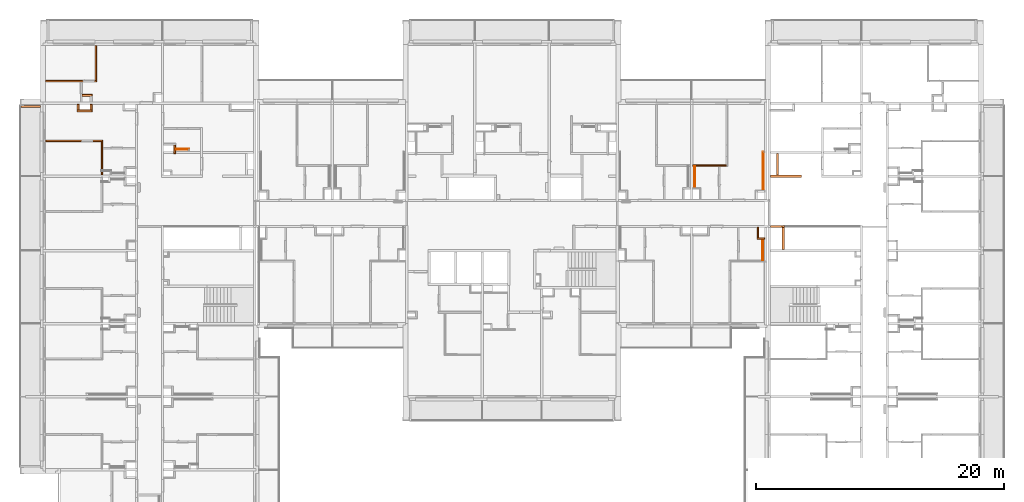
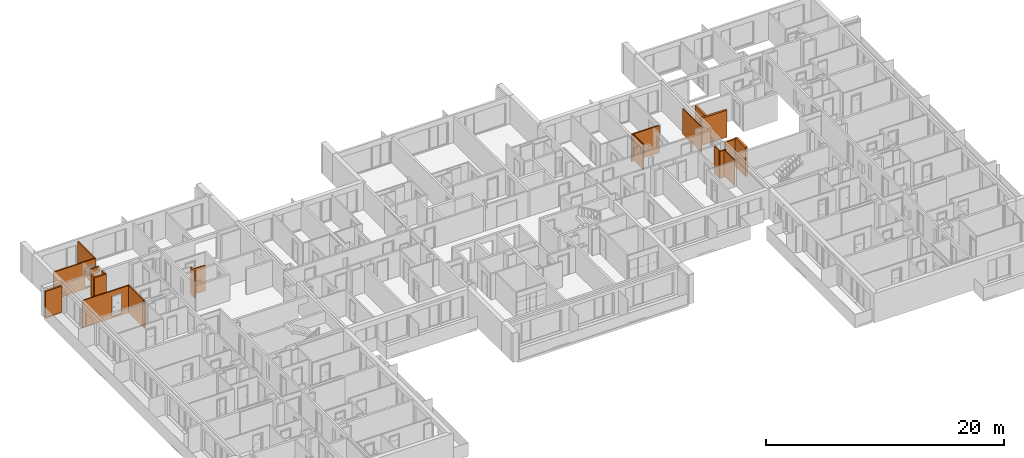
# One storey, part 61 of 66: 21 proxies, 2 openings.
"""IFC2X3 building model written with IfcOpenShell, lengths in millimetres."""

import ifcopenshell
import ifcopenshell.guid

model = None  # the IFC model being written
_history = None  # IfcOwnerHistory: only IFC2X3 demands one
_inside = {}  # id of a spatial element -> (the spatial element, [elements in it])
_under = {}  # id of a project, library or spatial element -> (it, [spatial elements below it])
_declared = {}  # id of a project -> (the project, [libraries it declares])
_typed = {}  # id of a type object -> (the type object, [elements of that type])
_made_of = {}  # id of a material, layer set ... -> (it, [elements and type objects made of it])


def new_model(schema):
    """Start an empty IFC model of exactly this schema.

    Asked for "IFC4X3", IfcOpenShell would pick the latest addendum, in which some entities
    have other attributes; the version numbers below select the first issue.
    IFC2X3 requires an IfcOwnerHistory on every rooted entity: one is made here for all.
    """
    global model, _history
    if schema == "IFC4X3":
        model = ifcopenshell.file(schema_version=(4, 3, 0, 0))
    else:
        model = ifcopenshell.file(schema=schema)
    _inside.clear()
    _under.clear()
    _declared.clear()
    _typed.clear()
    _made_of.clear()
    _history = None
    if model.schema == "IFC2X3":
        org = make("IfcOrganization", Name="unknown")
        user = make(
            "IfcPersonAndOrganization",
            ThePerson=make("IfcPerson", FamilyName="unknown"),
            TheOrganization=org,
        )
        app = make(
            "IfcApplication",
            ApplicationDeveloper=org,
            Version="unknown",
            ApplicationFullName="unknown",
            ApplicationIdentifier="unknown",
        )
        _history = make(
            "IfcOwnerHistory",
            OwningUser=user,
            OwningApplication=app,
            ChangeAction="ADDED",
            CreationDate=0,
        )
    return model


def make(cls, **values):
    """One entity of the class cls with the attributes given. An attribute that is None is left unset."""
    return model.create_entity(
        cls, **{name: value for name, value in values.items() if value is not None}
    )


def entity(cls, *values):
    """Any entity or typed value of the class cls, its attributes in the order of the schema. None: left unset."""
    e = model.create_entity(cls)
    for i, value in enumerate(values):
        if value is not None:
            e[i] = value
    return e


def rooted(cls, **values):
    """An entity with a GlobalId (a new one), such as an element, a storey or a relation."""
    return make(cls, GlobalId=ifcopenshell.guid.new(), OwnerHistory=_history, **values)


def si_unit(unit_type, name, prefix=None):
    """IfcSIUnit, for example si_unit("LENGTHUNIT", "METRE", prefix="MILLI")."""
    return make("IfcSIUnit", UnitType=unit_type, Prefix=prefix, Name=name)


def converted_unit(unit_type, name, factor, base, dimensions=None, offset=None):
    """IfcConversionBasedUnit, such as the inch: factor (a typed value) times the base unit."""
    return make(
        "IfcConversionBasedUnit"
        if offset is None
        else "IfcConversionBasedUnitWithOffset",
        ConversionOffset=offset,
        Dimensions=None
        if dimensions is None
        else entity("IfcDimensionalExponents", *dimensions),
        UnitType=unit_type,
        Name=name,
        ConversionFactor=make(
            "IfcMeasureWithUnit", ValueComponent=factor, UnitComponent=base
        ),
    )


def derived_unit(unit_type, elements):
    """IfcDerivedUnit: a product of units, each with its exponent."""
    return make(
        "IfcDerivedUnit",
        Elements=[
            make("IfcDerivedUnitElement", Unit=unit, Exponent=power)
            for unit, power in elements
        ],
        UnitType=unit_type,
    )


def money_unit(currency):
    """IfcMonetaryUnit."""
    return make("IfcMonetaryUnit", Currency=currency)


def assignment(units):
    """IfcUnitAssignment: the units of a project."""
    return None if units is None else make("IfcUnitAssignment", Units=units)


def point(xyz):
    """IfcCartesianPoint."""
    return None if xyz is None else make("IfcCartesianPoint", Coordinates=xyz)


def direction(xyz):
    """IfcDirection."""
    return None if xyz is None else make("IfcDirection", DirectionRatios=xyz)


def frame(location, z_axis=None, x_axis=None):
    """IfcAxis2Placement3D, a coordinate frame: its origin and axes. An axis left out is left unset."""
    return make(
        "IfcAxis2Placement3D",
        Location=point(location),
        Axis=direction(z_axis),
        RefDirection=direction(x_axis),
    )


def frame_2d(location, x_axis=None):
    """IfcAxis2Placement2D, a coordinate frame in the plane: its origin and x axis."""
    return make(
        "IfcAxis2Placement2D", Location=point(location), RefDirection=direction(x_axis)
    )


def origin_with_axes():
    """The frame at (0, 0, 0) with the z axis (0, 0, 1) and the x axis (1, 0, 0) written out."""
    return frame((0.0, 0.0, 0.0), z_axis=(0.0, 0.0, 1.0), x_axis=(1.0, 0.0, 0.0))


def origin_2d_with_axis():
    """The frame at (0, 0) in the plane with the x axis (1, 0) written out."""
    return frame_2d((0.0, 0.0), x_axis=(1.0, 0.0))


def place(relative_to, where):
    """IfcLocalPlacement: puts the frame where relative to a parent placement (None: the world)."""
    return make(
        "IfcLocalPlacement", PlacementRelTo=relative_to, RelativePlacement=where
    )


def context(
    kind, dimensions, precision=None, world=None, true_north=None, identifier=None
):
    """IfcGeometricRepresentationContext, for example the 3D "Model" context."""
    return make(
        "IfcGeometricRepresentationContext",
        ContextIdentifier=identifier,
        ContextType=kind,
        CoordinateSpaceDimension=dimensions,
        Precision=precision,
        WorldCoordinateSystem=world,
        TrueNorth=true_north,
    )


def subcontext(parent, identifier, kind, view, scale=None):
    """IfcGeometricRepresentationSubContext, for example "Body" below "Model"."""
    return make(
        "IfcGeometricRepresentationSubContext",
        ContextIdentifier=identifier,
        ContextType=kind,
        ParentContext=parent,
        TargetScale=scale,
        TargetView=view,
    )


def project(units=None, contexts=None):
    """IfcProject with its units and contexts."""
    return rooted(
        "IfcProject",
        Name="project",
        RepresentationContexts=contexts,
        UnitsInContext=assignment(units),
    )


def spatial(cls, under=None, at=None, **own):
    """A site, building, storey or space (cls), placed at a placement, below another one or the project."""
    s = rooted(cls, ObjectPlacement=at, **own)
    if under is not None:
        _under.setdefault(under.id(), (under, []))[1].append(s)
    return s


def profile(cls, at=None, kind="AREA", **sizes):
    """A parametric profile (cls). Its sizes go by their IFC names, for example OverallWidth=200.0."""
    return make(cls, ProfileType=kind, Position=at, **sizes)


def rectangle(**sizes):
    """IfcRectangleProfileDef."""
    return profile("IfcRectangleProfileDef", **sizes)


def extrude(swept, where, along, depth):
    """IfcExtrudedAreaSolid: the profile swept, set in the frame where, extruded along a direction by depth."""
    return make(
        "IfcExtrudedAreaSolid",
        SweptArea=swept,
        Position=where,
        ExtrudedDirection=direction(along),
        Depth=depth,
    )


def faces_of(points, faces, orient=None, outer=None):
    """IfcFace entities. A face is a list of loops; a loop is a list of indices into points, from 0.

    orient and outer hold one flag for each loop. By default every Orientation is true, the
    first loop of a face is its IfcFaceOuterBound and the others are IfcFaceBound.
    """
    made = []
    for i, loops in enumerate(faces):
        bounds = []
        for j, loop in enumerate(loops):
            is_outer = j == 0 if outer is None else outer[i][j]
            bounds.append(
                make(
                    "IfcFaceOuterBound" if is_outer else "IfcFaceBound",
                    Bound=make("IfcPolyLoop", Polygon=[points[k] for k in loop]),
                    Orientation=True if orient is None else orient[i][j],
                )
            )
        made.append(make("IfcFace", Bounds=bounds))
    return made


def faceted_brep(points, faces, orient=None, outer=None, voids=None):
    """IfcFacetedBrep: a solid bounded by flat faces; with voids (closed shells), ...WithVoids."""
    shared = [point(p) for p in points]
    hull = make("IfcClosedShell", CfsFaces=faces_of(shared, faces, orient, outer))
    if voids is None:
        return make("IfcFacetedBrep", Outer=hull)
    return make(
        "IfcFacetedBrepWithVoids",
        Outer=hull,
        Voids=[
            make(cls, CfsFaces=faces_of(shared, fs, o, b)) for cls, fs, o, b in voids
        ],
    )


def shape(context_of_items, identifier, shape_type, items):
    """IfcShapeRepresentation: the items that make up one representation, for example the "Body"."""
    return make(
        "IfcShapeRepresentation",
        ContextOfItems=context_of_items,
        RepresentationIdentifier=identifier,
        RepresentationType=shape_type,
        Items=items,
    )


def material(Name=None, Category=None):
    """IfcMaterial."""
    return make("IfcMaterial", Name=Name, Category=Category)


def material_list(materials):
    """IfcMaterialList."""
    return make("IfcMaterialList", Materials=materials)


def made_of(thing, what):
    """Note that an element or type object is made of a material, layer set ...; save() writes the relation."""
    if what is not None:
        _made_of.setdefault(what.id(), (what, []))[1].append(thing)
    return thing


def type_object(cls, material=None, **own):
    """A type object (cls), such as IfcWallType, which elements share."""
    return made_of(rooted(cls, **own), material)


def element(
    cls,
    number,
    at=None,
    inside=None,
    cuts=None,
    type_object=None,
    material=None,
    context=None,
    identifier="Body",
    shape_type=None,
    held_by="IfcProductDefinitionShape",
    body=None,
    shapes=None,
    **own,
):
    """One element of the class cls, such as IfcWall. Its Tag is "e" and its number.

    at: its placement. inside: the storey or other place that contains it. cuts: it is an
    opening in that element (IfcRelVoidsElement). A single representation is given by context,
    identifier, shape_type and body (its items); several are given by shapes. held_by: the class
    of the entity that holds the representations. save() writes the other relations.
    """
    e = rooted(cls, Tag="e%d" % number, ObjectPlacement=at, **own)
    if body is not None:
        shapes = [shape(context, identifier, shape_type, body)]
    if shapes is not None:
        e.Representation = make(held_by, Representations=shapes)
    if inside is not None:
        _inside.setdefault(inside.id(), (inside, []))[1].append(e)
    if cuts is not None:
        rooted(
            "IfcRelVoidsElement", RelatingBuildingElement=cuts, RelatedOpeningElement=e
        )
    if type_object is not None:
        _typed.setdefault(type_object.id(), (type_object, []))[1].append(e)
    return made_of(e, material)


def aggregate(whole, parts):
    """IfcRelAggregates: a whole, such as a stair, and the parts it consists of."""
    return rooted("IfcRelAggregates", RelatingObject=whole, RelatedObjects=parts)


def save(model, path):
    """Write the relations noted so far, then the file.

    IfcRelAggregates (storeys below a building ...), IfcRelContainedInSpatialStructure (elements
    in a storey), IfcRelDefinesByType, IfcRelAssociatesMaterial and IfcRelDeclares: one each for
    every whole, place, type object, material and project.
    """
    for whole, parts in _under.values():
        aggregate(whole, parts)
    for where, things in _inside.values():
        rooted(
            "IfcRelContainedInSpatialStructure",
            RelatedElements=things,
            RelatingStructure=where,
        )
    for kind, things in _typed.values():
        rooted("IfcRelDefinesByType", RelatedObjects=things, RelatingType=kind)
    for what, things in _made_of.values():
        rooted("IfcRelAssociatesMaterial", RelatedObjects=things, RelatingMaterial=what)
    for by, libraries in _declared.values():
        rooted("IfcRelDeclares", RelatingContext=by, RelatedDefinitions=libraries)
    model.write(path)


model = new_model("IFC2X3")

# Units and contexts
model_context = context("Model", 3, precision=0.01, world=origin_with_axes(), true_north=direction((0.34421633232, 0.938890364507)))
body_context = subcontext(model_context, "Body", "Model", "MODEL_VIEW")
ifc_project = project(units=[si_unit("LENGTHUNIT", "METRE", prefix="MILLI"), si_unit("AREAUNIT", "SQUARE_METRE"), si_unit("VOLUMEUNIT", "CUBIC_METRE"), converted_unit("PLANEANGLEUNIT", "DEGREE", entity("IfcPlaneAngleMeasure", 0.0174532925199), si_unit("PLANEANGLEUNIT", "RADIAN"), dimensions=[0, 0, 0, 0, 0, 0, 0]), si_unit("SOLIDANGLEUNIT", "STERADIAN"), money_unit("USD"), converted_unit("TIMEUNIT", "Year", entity("IfcTimeMeasure", 31556926.0), si_unit("TIMEUNIT", "SECOND"), dimensions=[0, 0, 1, 0, 0, 0, 0]), si_unit("MASSUNIT", "GRAM", prefix="KILO"), si_unit("THERMODYNAMICTEMPERATUREUNIT", "DEGREE_CELSIUS"), si_unit("LUMINOUSINTENSITYUNIT", "LUMEN"), si_unit("ENERGYUNIT", "JOULE", prefix="MEGA"), derived_unit("THERMALCONDUCTANCEUNIT", [(si_unit("POWERUNIT", "WATT"), 1), (si_unit("LENGTHUNIT", "METRE"), -1), (si_unit("THERMODYNAMICTEMPERATUREUNIT", "KELVIN"), -1)]), derived_unit("SPECIFICHEATCAPACITYUNIT", [(si_unit("ENERGYUNIT", "JOULE"), 1), (si_unit("MASSUNIT", "GRAM", prefix="KILO"), -1), (si_unit("THERMODYNAMICTEMPERATUREUNIT", "KELVIN"), -1)]), derived_unit("MASSDENSITYUNIT", [(si_unit("MASSUNIT", "GRAM", prefix="KILO"), 1), (si_unit("VOLUMEUNIT", "CUBIC_METRE"), -1)])], contexts=[model_context])

# Site, building, storey
site_placement = place(None, origin_with_axes())
site = spatial("IfcSite", under=ifc_project, at=site_placement, Name="USTRONIE MORSKIE", CompositionType="ELEMENT")
building_placement = place(site_placement, origin_with_axes())
building = spatial("IfcBuilding", under=site, at=building_placement, Name="Budynek", CompositionType="ELEMENT")
storey_placement = place(building_placement, frame((0.0, 0.0, 10000.0), z_axis=(0.0, 0.0, 1.0), x_axis=(1.0, 0.0, 0.0)))
storey = spatial("IfcBuildingStorey", under=building, at=storey_placement, Name="PIĘTRO 3", CompositionType="ELEMENT", Elevation=10000.0)

# Proxy
ifc_material_1 = material(Name="Bloczki silikatowe")
building_element_proxy_type_1 = type_object("IfcBuildingElementProxyType", Name="Bloczki silikatowe 120", PredefinedType="NOTDEFINED")
proxy_1_placement = place(storey_placement, frame((354227.920919, 746481.199036, -160.0), z_axis=(0.0, 0.0, 1.0), x_axis=(0.0, 1.0, 0.0)))
element("IfcBuildingElementProxy", 1, at=proxy_1_placement, inside=storey, type_object=building_element_proxy_type_1, material=ifc_material_1, Name="SW-04", context=body_context, shape_type="Brep", body=[
    faceted_brep([(2870.0, -60.0, 2800.0), (2870.0, 60.0, 2800.0), (59.9999999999, 60.0, 2800.0), (59.9999999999, -60.0, 2800.0), (2870.0, -60.0, 0.0), (2870.0, 60.0, 0.0), (59.9999999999, 60.0, 0.0), (59.9999999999, -60.0, 0.0)], [[[0, 1, 2, 3]], [[1, 0, 4, 5]], [[1, 5, 6, 2]], [[7, 3, 2, 6]], [[4, 0, 3, 7]], [[5, 4, 7, 6]]]),
])

# Proxy, opening
proxy_2_placement = place(storey_placement, frame((350067.920919, 746481.199036, -160.0), z_axis=(0.0, 0.0, 1.0), x_axis=(1.0, 0.0, 0.0)))
proxy_2 = element("IfcBuildingElementProxy", 2, at=proxy_2_placement, inside=storey, type_object=building_element_proxy_type_1, material=ifc_material_1, Name="SW-04", context=body_context, shape_type="Brep", body=[
    faceted_brep([(4220.0, 59.9999999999, 0.0), (4220.0, -59.9999999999, 0.0), (100.0, -59.9999999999, 0.0), (100.0, 59.9999999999, 0.0), (4220.0, 59.9999999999, 2800.0), (4220.0, -59.9999999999, 2800.0), (100.0, -59.9999999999, 2800.0), (100.0, 59.9999999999, 2800.0)], [[[0, 1, 2, 3]], [[1, 0, 4, 5]], [[1, 5, 6, 2]], [[7, 3, 2, 6]], [[4, 0, 3, 7]], [[5, 4, 7, 6]]]),
])
opening_1_placement = place(proxy_2_placement, frame((3580.0, 0.0, 160.0), z_axis=(0.0, 0.0, 1.0), x_axis=(1.0, 0.0, 0.0)))
element("IfcOpeningElement", 3, at=opening_1_placement, cuts=proxy_2, Name="Dw.3", context=body_context, shape_type="SweptSolid", body=[
    extrude(rectangle(XDim=920.0, YDim=2070.0, at=origin_2d_with_axis()), frame((0.0, -120.0, 1035.0), z_axis=(0.0, 1.0, 0.0), x_axis=(1.0, 0.0, 0.0)), (0.0, 0.0, 1.0), 360.0),
    extrude(rectangle(XDim=994.0, YDim=2177.0, at=origin_2d_with_axis()), frame((0.0, -59.9999999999, 1088.5), z_axis=(0.0, 1.0, 0.0), x_axis=(1.0, 0.0, 0.0)), (0.0, 0.0, -1.0), 120.0),
    extrude(rectangle(XDim=994.0, YDim=2177.0, at=origin_2d_with_axis()), frame((0.0, 60.0000000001, 1088.5), z_axis=(0.0, -1.0, 0.0), x_axis=(1.0, 0.0, 0.0)), (0.0, 0.0, -1.0), 120.0),
])

# Proxies
proxy_3_placement = place(storey_placement, frame((408317.920919, 733851.183064, -160.0), z_axis=(0.0, 0.0, 1.0), x_axis=(-0.999999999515, 3.11484020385e-05, 0.0)))
element("IfcBuildingElementProxy", 4, at=proxy_3_placement, inside=storey, type_object=building_element_proxy_type_1, material=ifc_material_1, Name="SW-04", context=body_context, shape_type="Brep", body=[
    faceted_brep([(719.979557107, -1.13686837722e-10, 2800.0), (719.972081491, 120.0, 2800.0), (99.9962622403, 120.0, 2800.0), (100.000000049, -1.13686837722e-10, 2800.0), (719.979557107, -1.13686837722e-10, 0.0), (719.972081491, 120.0, 0.0), (99.9962622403, 120.0, 0.0), (100.000000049, -1.13686837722e-10, 0.0)], [[[0, 1, 2, 3]], [[1, 0, 4, 5]], [[1, 5, 6, 2]], [[7, 3, 2, 6]], [[4, 0, 3, 7]], [[5, 4, 7, 6]]]),
])
proxy_4_placement = place(storey_placement, frame((354717.920919, 738801.199036, -160.0), z_axis=(0.0, 0.0, 1.0), x_axis=(0.0, 1.0, 0.0)))
element("IfcBuildingElementProxy", 5, at=proxy_4_placement, inside=storey, type_object=building_element_proxy_type_1, material=ifc_material_1, Name="SW-04", context=body_context, shape_type="Brep", body=[
    faceted_brep([(2790.01935038, 60.0, 0.0), (2790.01935038, -60.0, 0.0), (480.01915523, -60.0, 0.0), (480.01915523, 60.0, 0.0), (2790.01935038, 60.0, 2800.0), (2790.01935038, -60.0, 2800.0), (480.01915523, -60.0, 2800.0), (480.01915523, 60.0, 2800.0)], [[[0, 1, 2, 3]], [[1, 0, 4, 5]], [[1, 5, 6, 2]], [[7, 3, 2, 6]], [[4, 0, 3, 7]], [[5, 4, 7, 6]]]),
    faceted_brep([(400.01915523, 60.0, 0.0), (400.01915523, -60.0, 0.0), (99.9995896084, -60.0, 0.0), (99.9995887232, 60.0, 0.0), (400.01915523, 60.0, 2800.0), (400.01915523, -60.0, 2800.0), (99.9995896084, -60.0, 2800.0), (99.9995887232, 60.0, 2800.0)], [[[0, 1, 2, 3]], [[1, 0, 4, 5]], [[1, 5, 6, 2]], [[7, 3, 2, 6]], [[4, 0, 3, 7]], [[5, 4, 7, 6]]]),
])
proxy_5_placement = place(storey_placement, frame((402317.920919, 739651.199937, -160.0), z_axis=(0.0, 0.0, 1.0), x_axis=(1.0, 0.0, 0.0)))
element("IfcBuildingElementProxy", 6, at=proxy_5_placement, inside=storey, type_object=building_element_proxy_type_1, material=ifc_material_1, Name="SW-04", context=body_context, shape_type="Brep", body=[
    faceted_brep([(2790.00713284, 59.9999999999, 0.0), (2790.00713284, -59.9999999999, 0.0), (100.0, -59.9999999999, 0.0), (100.0, 59.9999999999, 0.0), (2790.00713284, 59.9999999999, 2800.0), (2790.00713284, -59.9999999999, 2800.0), (100.0, -59.9999999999, 2800.0), (100.0, 59.9999999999, 2800.0)], [[[0, 1, 2, 3]], [[1, 0, 4, 5]], [[1, 5, 6, 2]], [[7, 3, 2, 6]], [[4, 0, 3, 7]], [[5, 4, 7, 6]]]),
])

# Proxy, opening
proxy_6_placement = place(storey_placement, frame((354717.920919, 741651.218387, -160.0), z_axis=(0.0, 0.0, 1.0), x_axis=(-1.0, 0.0, 0.0)))
proxy_6 = element("IfcBuildingElementProxy", 7, at=proxy_6_placement, inside=storey, type_object=building_element_proxy_type_1, material=ifc_material_1, Name="SW-04", context=body_context, shape_type="Brep", body=[
    faceted_brep([(4550.0, -59.9999999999, 2800.0), (4550.0, 59.9999999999, 2800.0), (-60.0, 59.9999999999, 2800.0), (-60.0, -59.9999999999, 2800.0), (4550.0, -59.9999999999, 0.0), (4550.0, 59.9999999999, 0.0), (-60.0, 59.9999999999, 0.0), (-60.0, -59.9999999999, 0.0)], [[[0, 1, 2, 3]], [[1, 0, 4, 5]], [[1, 5, 6, 2]], [[7, 3, 2, 6]], [[4, 0, 3, 7]], [[5, 4, 7, 6]]]),
])
opening_2_placement = place(proxy_6_placement, frame((1200.0, 0.0, 160.0), z_axis=(0.0, 0.0, 1.0), x_axis=(1.0, 0.0, 0.0)))
element("IfcOpeningElement", 8, at=opening_2_placement, cuts=proxy_6, Name="Dw.3", context=body_context, shape_type="SweptSolid", body=[
    extrude(rectangle(XDim=920.0, YDim=2070.0, at=origin_2d_with_axis()), frame((0.0, 120.0, 1035.0), z_axis=(0.0, 1.0, 0.0), x_axis=(-1.0, 0.0, 0.0)), (0.0, 0.0, -1.0), 360.0),
    extrude(rectangle(XDim=994.0, YDim=2177.0, at=origin_2d_with_axis()), frame((0.0, 60.0000000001, 1088.5), z_axis=(0.0, 1.0, 0.0), x_axis=(-1.0, 0.0, 0.0)), (0.0, 0.0, 1.0), 120.0),
    extrude(rectangle(XDim=994.0, YDim=2177.0, at=origin_2d_with_axis()), frame((0.0, -59.9999999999, 1088.5), z_axis=(0.0, -1.0, 0.0), x_axis=(-1.0, 0.0, 0.0)), (0.0, 0.0, 1.0), 120.0),
])

# Proxies
proxy_7_placement = place(storey_placement, frame((407717.913329, 734751.199287, -160.0), z_axis=(0.0, 0.0, 1.0), x_axis=(3.11484010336e-05, -0.999999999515, 0.0)))
element("IfcBuildingElementProxy", 9, at=proxy_7_placement, inside=storey, type_object=building_element_proxy_type_1, material=ifc_material_1, Name="SW-04", context=body_context, shape_type="Brep", body=[
    faceted_brep([(899.997535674, 0.0, 0.0), (899.990060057, -120.0, 0.0), (79.9962250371, -120.0, 0.0), (80.0000000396, 0.0, 0.0), (899.997535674, 0.0, 2800.0), (899.990060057, -120.0, 2800.0), (79.9962250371, -120.0, 2800.0), (80.0000000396, 0.0, 2800.0)], [[[0, 1, 2, 3]], [[1, 0, 4, 5]], [[1, 5, 6, 2]], [[7, 3, 2, 6]], [[4, 0, 3, 7]], [[5, 4, 7, 6]]]),
])
building_element_proxy_type_2 = type_object("IfcBuildingElementProxyType", Name="Bloczki silikatowe 180", PredefinedType="NOTDEFINED")
proxy_8_placement = place(storey_placement, frame((409257.920919, 738801.199036, -160.0), z_axis=(0.0, 0.0, 1.0), x_axis=(0.0, 1.0, 0.0)))
element("IfcBuildingElementProxy", 10, at=proxy_8_placement, inside=storey, type_object=building_element_proxy_type_2, material=ifc_material_1, Name="SW-02", context=body_context, shape_type="Brep", body=[
    faceted_brep([(1819.98043997, 90.0, 0.0), (1819.98043997, -90.0, 0.0), (100.0, -90.0, 0.0), (100.0, 90.0, 0.0), (1819.98043997, 90.0, 2800.0), (1819.98043997, -90.0, 2800.0), (100.0, -90.0, 2800.0), (100.0, 90.0, 2800.0)], [[[0, 1, 2, 3]], [[1, 0, 4, 5]], [[1, 5, 6, 2]], [[7, 3, 2, 6]], [[4, 0, 3, 7]], [[5, 4, 7, 6]]]),
])
proxy_9_placement = place(storey_placement, frame((408567.920919, 734741.199132, -160.0), z_axis=(0.0, 0.0, 1.0), x_axis=(1.0, 0.0, 0.0)))
element("IfcBuildingElementProxy", 11, at=proxy_9_placement, inside=storey, type_object=building_element_proxy_type_2, material=ifc_material_1, Name="SW-02", context=body_context, shape_type="Brep", body=[
    faceted_brep([(1049.99570195, -90.0, 2800.0), (1049.99570195, -90.0, 0.0), (1049.99479424, 90.0, 0.0), (1049.99479424, 90.0000000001, 2800.0), (100.0, -90.0, 0.0), (100.0, -90.0, 2800.0), (100.0, 90.0, 0.0), (100.0, 90.0, 2800.0)], [[[0, 1, 2, 3]], [[4, 1, 0, 5]], [[6, 2, 1, 4]], [[3, 2, 6, 7]], [[5, 0, 3, 7]], [[5, 7, 6, 4]]]),
])
ifc_material_2 = material(Name="Płyta GK")
ifc_material_3 = material(Name="-Pustka powietrzna")
ifc_material_list_1 = material_list([ifc_material_2, ifc_material_2, ifc_material_3])
building_element_proxy_type_3 = type_object("IfcBuildingElementProxyType", Name="330-SD GK 2-warstwy 75", PredefinedType="NOTDEFINED")
proxy_10_placement = place(storey_placement, frame((408087.943039, 737501.202288, -180.0), z_axis=(0.0, 0.0, 1.0), x_axis=(0.0, 1.0, 0.0)))
element("IfcBuildingElementProxy", 12, at=proxy_10_placement, inside=storey, type_object=building_element_proxy_type_3, material=ifc_material_list_1, Name="Ściana-009", context=body_context, shape_type="Brep", body=[
    faceted_brep([(150.0, 12.5, 165.0), (3282.5, 12.5, 165.0), (3282.5, 12.5, 2820.0), (150.0, 12.5, 2820.0), (3282.5, 25.0, 165.0), (150.0, 25.0, 165.0), (3282.5, 25.0, 2820.0), (150.0, 25.0, 2820.0)], [[[0, 1, 2, 3]], [[4, 1, 0, 5]], [[1, 4, 6, 2]], [[6, 7, 3, 2]], [[5, 0, 3, 7]], [[4, 5, 7, 6]]]),
    faceted_brep([(150.0, 0.0, 165.0), (3270.0, 0.0, 165.0), (3270.0, 0.0, 2820.0), (150.0, 0.0, 2820.0), (3270.0, 12.5, 165.0), (150.0, 12.5, 165.0), (3270.0, 12.5, 2820.0), (150.0, 12.5, 2820.0)], [[[0, 1, 2, 3]], [[4, 1, 0, 5]], [[1, 4, 6, 2]], [[6, 7, 3, 2]], [[5, 0, 3, 7]], [[4, 5, 7, 6]]]),
    faceted_brep([(150.0, -50.0, 180.0), (3220.0, -50.0, 180.0), (3220.0, -50.0, 2820.0), (150.0, -50.0, 2820.0), (3220.0, 0.0, 180.0), (150.0, 0.0, 180.0), (3220.0, 0.0, 2820.0), (150.0, 0.0, 2820.0)], [[[0, 1, 2, 3]], [[4, 1, 0, 5]], [[1, 4, 6, 2]], [[6, 7, 3, 2]], [[5, 0, 3, 7]], [[4, 5, 7, 6]]]),
])
proxy_11_placement = place(storey_placement, frame((360592.922714, 741001.179476, -180.0), z_axis=(0.0, 0.0, 1.0), x_axis=(1.0, 0.0, 0.0)))
element("IfcBuildingElementProxy", 13, at=proxy_11_placement, inside=storey, type_object=building_element_proxy_type_3, material=ifc_material_list_1, Name="Ściana-009", context=body_context, shape_type="Brep", body=[
    faceted_brep([(1175.0, 12.5, 165.0), (1175.0, 25.0, 165.0), (1175.0, 25.0, 2820.0), (1175.0, 12.5, 2820.0), (75.0, 25.0, 165.0), (75.0, 12.5, 165.0), (75.0, 25.0, 2820.0), (75.0, 12.5, 2820.0)], [[[0, 1, 2, 3]], [[4, 1, 0, 5]], [[1, 4, 6, 2]], [[2, 6, 7, 3]], [[5, 0, 3, 7]], [[4, 5, 7, 6]]]),
    faceted_brep([(1162.5, 0.0, 165.0), (1162.5, 12.5, 165.0), (1162.5, 12.5, 2820.0), (1162.5, 0.0, 2820.0), (75.0, 12.5, 165.0), (75.0, 0.0, 165.0), (75.0, 12.5, 2820.0), (75.0, 0.0, 2820.0)], [[[0, 1, 2, 3]], [[4, 1, 0, 5]], [[1, 4, 6, 2]], [[2, 6, 7, 3]], [[5, 0, 3, 7]], [[4, 5, 7, 6]]]),
    faceted_brep([(1150.0, -50.0, 180.0), (1150.0, 0.0, 180.0), (1150.0, 0.0, 2820.0), (1150.0, -50.0, 2820.0), (75.0, 0.0, 180.0), (75.0, -50.0, 180.0), (75.0, 0.0, 2820.0), (75.0, -50.0, 2820.0)], [[[0, 1, 2, 3]], [[4, 1, 0, 5]], [[1, 4, 6, 2]], [[2, 6, 7, 3]], [[5, 0, 3, 7]], [[4, 5, 7, 6]]]),
])
ifc_material_list_2 = material_list([ifc_material_3, ifc_material_2, ifc_material_2])
proxy_12_placement = place(storey_placement, frame((408072.933272, 733851.191629, -160.0), z_axis=(0.0, 0.0, 1.0), x_axis=(0.0, -1.0, 0.0)))
element("IfcBuildingElementProxy", 14, at=proxy_12_placement, inside=storey, type_object=building_element_proxy_type_3, material=ifc_material_list_2, Name="Ściana-009", context=body_context, shape_type="Brep", body=[
    faceted_brep([(1839.99249676, 25.0, 160.0), (120.00171322, 25.0, 160.0), (120.00171322, 25.0, 2800.0), (1839.99249676, 25.0, 2800.0), (120.0001558, -25.0, 160.0), (1839.99249676, -25.0, 160.0), (120.0001558, -25.0, 2800.0), (1839.99249676, -25.0, 2800.0)], [[[0, 1, 2, 3]], [[4, 1, 0, 5]], [[1, 4, 6, 2]], [[7, 3, 2, 6]], [[5, 0, 3, 7]], [[4, 5, 7, 6]]]),
    faceted_brep([(1839.99249676, -25.0, 145.0), (120.0001558, -25.0, 145.0), (120.0001558, -25.0, 2800.0), (1839.99249676, -25.0, 2800.0), (119.999766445, -37.5, 145.0), (1839.99249676, -37.5, 145.0), (119.999766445, -37.5, 2800.0), (1839.99249676, -37.5, 2800.0)], [[[0, 1, 2, 3]], [[4, 1, 0, 5]], [[1, 4, 6, 2]], [[7, 3, 2, 6]], [[5, 0, 3, 7]], [[4, 5, 7, 6]]]),
    faceted_brep([(1839.99249676, -37.5, 145.0), (119.999766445, -37.5, 145.0), (119.999766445, -37.5, 2800.0), (1839.99249676, -37.5, 2800.0), (119.99937709, -50.0, 145.0), (1839.99249676, -50.0, 145.0), (119.99937709, -50.0, 2800.0), (1839.99249676, -50.0, 2800.0)], [[[0, 1, 2, 3]], [[4, 1, 0, 5]], [[1, 4, 6, 2]], [[7, 3, 2, 6]], [[5, 0, 3, 7]], [[4, 5, 7, 6]]]),
])
proxy_13_placement = place(storey_placement, frame((402562.908566, 739651.199937, -180.0), z_axis=(0.0, 0.0, 1.0), x_axis=(0.0, -1.0, 0.0)))
element("IfcBuildingElementProxy", 15, at=proxy_13_placement, inside=storey, type_object=building_element_proxy_type_3, material=ifc_material_list_1, Name="Ściana-009", context=body_context, shape_type="Brep", body=[
    faceted_brep([(1780.0, 50.0, 165.0), (59.9999999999, 50.0, 165.0), (59.9999999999, 50.0, 2820.0), (1780.0, 50.0, 2820.0), (59.9999999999, 37.5, 165.0), (1780.0, 37.5, 165.0), (59.9999999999, 37.5, 2820.0), (1780.0, 37.5, 2820.0)], [[[0, 1, 2, 3]], [[4, 1, 0, 5]], [[1, 4, 6, 2]], [[6, 7, 3, 2]], [[5, 0, 3, 7]], [[4, 5, 7, 6]]]),
    faceted_brep([(1780.0, 37.5, 165.0), (59.9999999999, 37.5, 165.0), (59.9999999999, 37.5, 2820.0), (1780.0, 37.5, 2820.0), (59.9999999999, 25.0, 165.0), (1780.0, 25.0, 165.0), (59.9999999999, 25.0, 2820.0), (1780.0, 25.0, 2820.0)], [[[0, 1, 2, 3]], [[4, 1, 0, 5]], [[1, 4, 6, 2]], [[6, 7, 3, 2]], [[5, 0, 3, 7]], [[4, 5, 7, 6]]]),
    faceted_brep([(1780.0, 25.0, 180.0), (59.9999999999, 25.0, 180.0), (59.9999999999, 25.0, 2820.0), (1780.0, 25.0, 2820.0), (59.9999999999, -25.0, 180.0), (1780.0, -25.0, 180.0), (59.9999999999, -25.0, 2820.0), (1780.0, -25.0, 2820.0)], [[[0, 1, 2, 3]], [[4, 1, 0, 5]], [[1, 4, 6, 2]], [[6, 7, 3, 2]], [[5, 0, 3, 7]], [[4, 5, 7, 6]]]),
])
building_element_proxy_type_4 = type_object("IfcBuildingElementProxyType", Name="Bloczki silikatowe 150", PredefinedType="NOTDEFINED")
proxy_14_placement = place(storey_placement, frame((360592.922714, 740711.179476, -160.0), z_axis=(0.0, 0.0, 1.0), x_axis=(0.0, 1.0, 0.0)))
element("IfcBuildingElementProxy", 16, at=proxy_14_placement, inside=storey, type_object=building_element_proxy_type_4, material=ifc_material_1, Name="SW-03", context=body_context, shape_type="Brep", body=[
    faceted_brep([(590.00090117, -75.0, 2800.0), (590.00090117, 75.0, 2800.0), (-90.0, 75.0, 2800.0), (-90.0, -75.0, 2800.0), (590.00090117, -75.0, 0.0), (590.00090117, 75.0, 0.0), (-90.0, 75.0, 0.0), (-90.0, -75.0, 0.0)], [[[0, 1, 2, 3]], [[1, 0, 4, 5]], [[1, 5, 6, 2]], [[7, 3, 2, 6]], [[4, 0, 3, 7]], [[5, 4, 7, 6]]]),
])
proxy_15_placement = place(storey_placement, frame((352792.920919, 744091.199036, -160.0), z_axis=(0.0, 0.0, 1.0), x_axis=(1.0, 0.0, 0.0)))
element("IfcBuildingElementProxy", 17, at=proxy_15_placement, inside=storey, type_object=building_element_proxy_type_4, material=ifc_material_1, Name="SW-03", context=body_context, shape_type="Brep", body=[
    faceted_brep([(1125.0, -90.0, 2800.0), (1125.0, 59.9999999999, 2800.0), (-75.0, 59.9999999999, 2800.0), (-75.0, -90.0, 2800.0), (1125.0, -90.0, 0.0), (1125.0, 59.9999999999, 0.0), (-75.0, 59.9999999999, 0.0), (-75.0, -90.0, 0.0)], [[[0, 1, 2, 3]], [[1, 0, 4, 5]], [[1, 5, 6, 2]], [[7, 3, 2, 6]], [[4, 0, 3, 7]], [[5, 4, 7, 6]]]),
])
proxy_16_placement = place(storey_placement, frame((353842.920919, 744091.199036, -160.0), z_axis=(0.0, 0.0, 1.0), x_axis=(0.0, 1.0, 0.0)))
element("IfcBuildingElementProxy", 18, at=proxy_16_placement, inside=storey, type_object=building_element_proxy_type_4, material=ifc_material_1, Name="SW-03", context=body_context, shape_type="Brep", body=[
    faceted_brep([(59.9999999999, -75.0, 0.0), (510.0, -75.0, 0.0), (510.0, -75.0, 2800.0), (59.9999999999, -75.0, 2800.0), (59.9999999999, 75.0, 0.0), (510.0, 75.0, 0.0), (510.0, 75.0, 2800.0), (59.9999999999, 75.0, 2800.0)], [[[0, 1, 2, 3]], [[4, 5, 1, 0]], [[5, 6, 2, 1]], [[3, 2, 6, 7]], [[0, 3, 7, 4]], [[7, 6, 5, 4]]]),
])
proxy_17_placement = place(storey_placement, frame((352792.920919, 744091.199036, -160.0), z_axis=(0.0, 0.0, 1.0), x_axis=(0.0, 1.0, 0.0)))
element("IfcBuildingElementProxy", 19, at=proxy_17_placement, inside=storey, type_object=building_element_proxy_type_4, material=ifc_material_1, Name="SW-03", context=body_context, shape_type="Brep", body=[
    faceted_brep([(510.0, -75.0, 2800.0), (510.0, 75.0, 2800.0), (59.9999999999, 75.0, 2800.0), (59.9999999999, -75.0, 2800.0), (510.0, -75.0, 0.0), (510.0, 75.0, 0.0), (59.9999999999, 75.0, 0.0), (59.9999999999, -75.0, 0.0)], [[[0, 1, 2, 3]], [[1, 0, 4, 5]], [[1, 5, 6, 2]], [[7, 3, 2, 6]], [[4, 0, 3, 7]], [[5, 4, 7, 6]]]),
])
proxy_18_placement = place(storey_placement, frame((353042.920919, 745326.199036, -160.0), z_axis=(0.0, 0.0, 1.0), x_axis=(1.0, 0.0, 0.0)))
element("IfcBuildingElementProxy", 20, at=proxy_18_placement, inside=storey, type_object=building_element_proxy_type_4, material=ifc_material_1, Name="Œciana-007", context=body_context, shape_type="Brep", body=[
    faceted_brep([(875.0, -75.0, 2800.0), (875.0, 75.0, 2800.0), (75.0, 75.0, 2800.0), (75.0, -75.0, 2800.0), (875.0, -75.0, 0.0), (875.0, 75.0, 0.0), (75.0, 75.0, 0.0), (75.0, -75.0, 0.0)], [[[0, 1, 2, 3]], [[1, 0, 4, 5]], [[1, 5, 6, 2]], [[7, 3, 2, 6]], [[4, 0, 3, 7]], [[5, 4, 7, 6]]]),
])
ifc_material_4 = material(Name="Beton konstrukcyjny B25")
building_element_proxy_type_5 = type_object("IfcBuildingElementProxyType", Name="Beton konstrukcyjny B25 200", PredefinedType="NOTDEFINED")
proxy_19_placement = place(storey_placement, frame((409717.92595, 732801.199087, -160.0), z_axis=(0.0, 0.0, 1.0), x_axis=(-5.04278980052e-06, 0.999999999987, 0.0)))
element("IfcBuildingElementProxy", 21, at=proxy_19_placement, inside=storey, type_object=building_element_proxy_type_5, material=ifc_material_4, Name="SW-01", context=body_context, shape_type="Brep", body=[
    faceted_brep([(2030.0005502, 100.0, 2800.0), (1940.00004592, 100.0, 2800.0), (1940.00004592, -100.0, 2800.0), (2029.99954165, -100.0, 2800.0), (1850.00040296, 100.0, 3000.0), (1850.00040296, 100.0, 2800.0), (2030.0005502, 100.0, 1060.0), (2030.0005502, 100.0, 0.0), (100.000453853, 100.0, 0.0), (100.000453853, 100.0, 3000.0), (1849.9993944, -100.0, 2800.0), (1849.9993944, -100.0, 3000.0), (99.9994452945, -99.9999999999, 3000.0), (99.9994452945, -99.9999999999, 0.0), (2029.99954165, -100.0, 0.0), (2029.99954165, -100.0, 1060.0)], [[[0, 1, 2, 3]], [[4, 5, 1, 0, 6, 7, 8, 9]], [[5, 10, 2, 1]], [[2, 10, 11, 12, 13, 14, 15, 3]], [[6, 0, 3, 15]], [[5, 4, 11, 10]], [[15, 14, 7, 6]], [[14, 13, 8, 7]], [[9, 8, 13, 12]], [[12, 11, 4, 9]]]),
])
proxy_20_placement = place(storey_placement, frame((411187.920963, 738801.199036, -180.0), z_axis=(0.0, 0.0, 1.0), x_axis=(-1.0, 0.0, 0.0)))
element("IfcBuildingElementProxy", 22, at=proxy_20_placement, inside=storey, type_object=building_element_proxy_type_5, material=ifc_material_4, Name="SW-01", context=body_context, shape_type="Brep", body=[
    faceted_brep([(0.0, -100.0, 20.0), (0.0, 100.0, 20.0), (2520.0000443, 100.0, 20.0), (2520.0000443, -100.0, 20.0), (0.0, 100.0, 2820.0), (0.0, -100.0, 2820.0), (2520.0000443, 100.0, 2820.0), (2520.0000443, -100.0, 2820.0)], [[[0, 1, 2, 3]], [[4, 1, 0, 5]], [[6, 2, 1, 4]], [[7, 3, 2, 6]], [[0, 3, 7, 5]], [[4, 5, 7, 6]]]),
])
ifc_material_5 = material(Name="Laminat")
building_element_proxy_type_6 = type_object("IfcBuildingElementProxyType", Name="Laminat 150", PredefinedType="NOTDEFINED")
proxy_21_placement = place(storey_placement, frame((349757.920919, 744416.199036, -180.0), z_axis=(0.0, 0.0, 1.0), x_axis=(-1.0, 0.0, 0.0)))
element("IfcBuildingElementProxy", 23, at=proxy_21_placement, inside=storey, type_object=building_element_proxy_type_6, material=ifc_material_5, Name="SW-03", context=body_context, shape_type="Brep", body=[
    faceted_brep([(1590.0, 75.0, 2809.99999183), (1589.99971409, 75.0, 29.9999962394), (0.0, 75.0, 29.9999963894), (0.0, 75.0, 2809.99999183), (1547.49980813, 75.0, 34.9999951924), (1572.49971536, 75.0, 34.9999951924), (1572.49971536, 75.0, 129.999995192), (4.99980812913, 75.0, 129.999995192), (4.99980812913, 75.0, 104.999995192), (1547.49980813, 75.0, 104.999995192), (1590.0, -75.0, 2809.99999183), (1589.99971409, -75.0, 29.9999962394), (0.0, -75.0, 29.9999963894), (0.0, -75.0, 2809.99999183), (1547.49980813, -75.0, 34.9999951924), (1572.49971536, -75.0, 34.9999951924), (1572.49971536, -75.0, 129.999995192), (4.99980812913, -75.0, 129.999995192), (4.99980812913, -75.0, 104.999995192), (1547.49980813, -75.0, 104.999995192)], [[[0, 1, 2, 3], [4, 5, 6, 7, 8, 9]], [[10, 11, 1, 0]], [[1, 11, 12, 2]], [[3, 2, 12, 13]], [[3, 13, 10, 0]], [[4, 14, 15, 5]], [[5, 15, 16, 6]], [[6, 16, 17, 7]], [[7, 17, 18, 8]], [[8, 18, 19, 9]], [[9, 19, 14, 4]], [[13, 12, 11, 10], [14, 19, 18, 17, 16, 15]]]),
])

save(model, "model.ifc")
